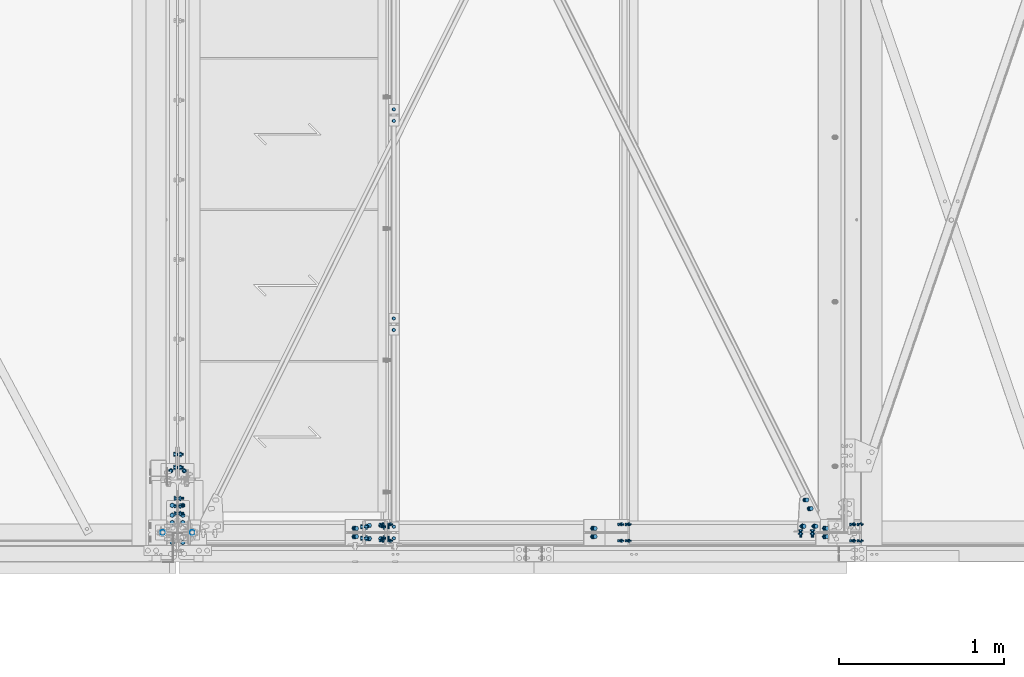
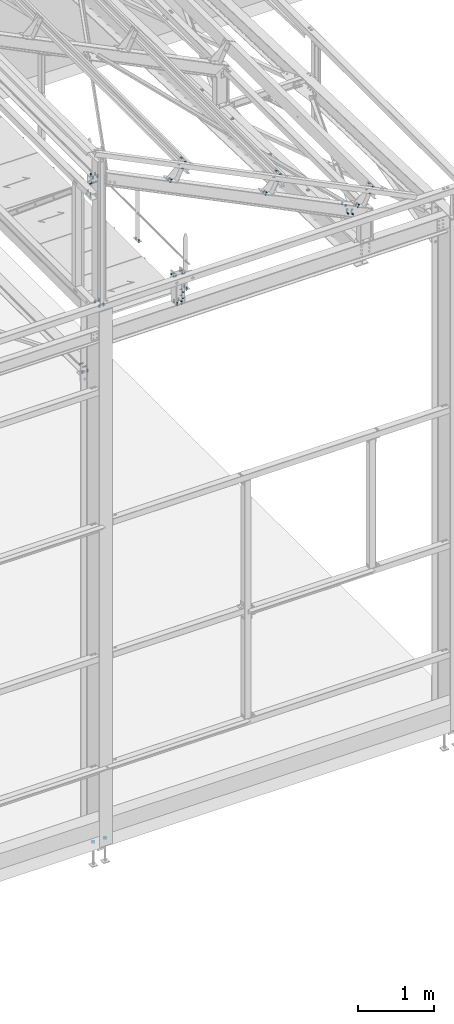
# One storey, part 186 of 362: 22 mechanical fasteners.
"""IFC2X3 building model written with IfcOpenShell, lengths in millimetres."""

from ifc_helpers import new_model, si_unit, frame, origin_with_axes, origin_2d_with_axis, place, context, subcontext, project, spatial, polyline, circle, outline, extrude, source, transform, mapped, material, type_object, element, save


model = new_model("IFC2X3")

# Units and contexts
model_context = context("Model", 3, precision=1e-05, world=origin_with_axes())
body_context = subcontext(model_context, "Body", "Model", "MODEL_VIEW")
ifc_project = project(units=[si_unit("LENGTHUNIT", "METRE", prefix="MILLI"), si_unit("AREAUNIT", "SQUARE_METRE"), si_unit("VOLUMEUNIT", "CUBIC_METRE"), si_unit("MASSUNIT", "GRAM", prefix="KILO"), si_unit("TIMEUNIT", "SECOND"), si_unit("PLANEANGLEUNIT", "RADIAN"), si_unit("SOLIDANGLEUNIT", "STERADIAN"), si_unit("THERMODYNAMICTEMPERATUREUNIT", "DEGREE_CELSIUS"), si_unit("LUMINOUSINTENSITYUNIT", "LUMEN")], contexts=[model_context])

# Site, building, storey
site_placement = place(None, origin_with_axes())
site = spatial("IfcSite", under=ifc_project, at=site_placement, Name="Undefined", CompositionType="ELEMENT")
building_placement = place(site_placement, origin_with_axes())
building = spatial("IfcBuilding", under=site, at=building_placement, Name="Undefined", CompositionType="ELEMENT")
storey_placement = place(building_placement, origin_with_axes())
storey = spatial("IfcBuildingStorey", under=building, at=storey_placement, Name="Undefined", CompositionType="ELEMENT", Elevation=0.0)

# Mechanical fasteners
ifc_material_1 = material(Name="8.8-SB-ZINGUE")
mechanical_fastener_type = type_object("IfcMechanicalFastenerType", Name="Bolt assembly")
shared_shape_1 = source(origin_with_axes(), body_context, "Body", "SweptSolid", [
    extrude(circle(Radius=7.0, at=origin_2d_with_axis()), frame((0.0, -0.100011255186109, 0.0), z_axis=(0.0, 1.0, 0.0), x_axis=(1.0, 0.0, 0.0)), (0.0, 0.0, 1.0), 3.1),
    extrude(circle(Radius=7.0, at=origin_2d_with_axis()), frame((0.0, -9.9, 0.0), z_axis=(0.0, 1.0, 0.0), x_axis=(1.0, 0.0, 0.0)), (0.0, 0.0, 1.0), 10.0),
    extrude(outline(polyline([(10.39230484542, 0.0), (5.19615242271, 9.00000000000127), (-5.19615242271, 9.00000000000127), (-10.39230484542, 0.0), (-5.19615242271, -9.00000000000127), (5.19615242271, -9.00000000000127), (10.39230484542, 0.0)])), frame((0.0, -17.92, 0.0), z_axis=(0.0, 1.0, 0.0), x_axis=(1.0, 0.0, 0.0)), (0.0, 0.0, 1.0), 7.92),
    extrude(circle(Radius=6.0, at=origin_2d_with_axis()), frame((0.0, -10.0000010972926, 0.0), z_axis=(0.0, 1.0, 0.0), x_axis=(1.0, 0.0, 0.0)), (0.0, 0.0, 1.0), 30.0),
    extrude(outline(polyline([(11.5008173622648, 0.0), (5.7504086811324, 9.96000000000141), (-5.7504086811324, 9.96000000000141), (-11.5008173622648, 0.0), (-5.7504086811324, -9.96000000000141), (5.7504086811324, -9.96000000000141), (11.5008173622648, 0.0)])), frame((0.0, 3.00000067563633, 0.0), z_axis=(0.0, 1.0, 0.0), x_axis=(1.0, 0.0, 0.0)), (0.0, 0.0, 1.0), 7.92),
])
mechanical_fastener_1_placement = place(storey_placement, frame((38381.4177264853, 5.9655603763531e-05, 8807.89603222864), z_axis=(0.0, 1.0, 0.0), x_axis=(0.44122107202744, 0.0, 0.89739844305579)))
element("IfcMechanicalFastener", 1, at=mechanical_fastener_1_placement, inside=storey, type_object=mechanical_fastener_type, material=ifc_material_1, Name="Bolt assembly", NominalDiameter=12.0, NominalLength=30.0, context=body_context, shape_type="MappedRepresentation", body=[
    mapped(shared_shape_1, transform((0.0, 0.0, -50.0))),
    mapped(shared_shape_1, transform((100.0, 0.0, -50.0))),
    mapped(shared_shape_1, transform((0.0, 0.0, 50.0))),
    mapped(shared_shape_1, transform((100.0, 0.0, 50.0))),
])
ifc_material_2 = material(Name="#_SB-8.8-ZINGUE")
shared_shape_2 = source(origin_with_axes(), body_context, "Body", "SweptSolid", [
    extrude(circle(Radius=9.0, at=origin_2d_with_axis()), frame((0.0, 0.1, 0.0), z_axis=(0.0, 1.0, 0.0), x_axis=(1.0, 0.0, 0.0)), (0.0, 0.0, 1.0), 6.0),
    extrude(circle(Radius=9.0, at=origin_2d_with_axis()), frame((0.0, 5.90002706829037, 0.0), z_axis=(0.0, 1.0, 0.0), x_axis=(1.0, 0.0, 0.0)), (0.0, 0.0, 1.0), 6.1),
    extrude(outline(polyline([(13.85640646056, 0.0), (6.92820323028, 12.0000000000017), (-6.92820323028, 12.0000000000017), (-13.85640646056, 0.0), (-6.92820323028, -12.0000000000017), (6.92820323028, -12.0000000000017), (13.85640646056, 0.0)])), frame((0.0, -10.5600019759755, 0.0), z_axis=(0.0, 1.0, 0.0), x_axis=(1.0, 0.0, 0.0)), (0.0, 0.0, 1.0), 10.56),
    extrude(circle(Radius=8.0, at=origin_2d_with_axis()), frame((0.0, 0.0, 0.0), z_axis=(0.0, 1.0, 0.0), x_axis=(1.0, 0.0, 0.0)), (0.0, 0.0, 1.0), 40.0),
    extrude(outline(polyline([(15.3344231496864, 0.0), (7.6672115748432, 13.2800000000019), (-7.6672115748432, 13.2800000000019), (-15.3344231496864, 0.0), (-7.6672115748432, -13.2800000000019), (7.6672115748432, -13.2800000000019), (15.3344231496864, 0.0)])), frame((0.0, 12.0000270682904, 0.0), z_axis=(0.0, 1.0, 0.0), x_axis=(1.0, 0.0, 0.0)), (0.0, 0.0, 1.0), 10.56),
])
mechanical_fastener_2_placement = place(storey_placement, frame((38119.1076681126, 38.0002790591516, 8591.4235645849), z_axis=(0.897398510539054, 0.0, -0.44122093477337), x_axis=(0.0, -1.0, 0.0)))
element("IfcMechanicalFastener", 2, at=mechanical_fastener_2_placement, inside=storey, type_object=mechanical_fastener_type, material=ifc_material_2, Name="Bolt assembly", NominalDiameter=16.0, NominalLength=40.0, context=body_context, shape_type="MappedRepresentation", body=[
    mapped(shared_shape_2, transform((0.0, 0.0, 40.0))),
    mapped(shared_shape_2, transform((0.0, 0.0, -40.0))),
])
shared_shape_3 = source(origin_with_axes(), body_context, "Body", "SweptSolid", [
    extrude(circle(Radius=9.0, at=origin_2d_with_axis()), frame((0.0, -0.100011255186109, 0.0), z_axis=(0.0, 1.0, 0.0), x_axis=(1.0, 0.0, 0.0)), (0.0, 0.0, 1.0), 10.3),
    extrude(circle(Radius=9.0, at=origin_2d_with_axis()), frame((0.0, -9.9, 0.0), z_axis=(0.0, 1.0, 0.0), x_axis=(1.0, 0.0, 0.0)), (0.0, 0.0, 1.0), 10.0),
    extrude(outline(polyline([(13.85640646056, 0.0), (6.92820323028, 12.0000000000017), (-6.92820323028, 12.0000000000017), (-13.85640646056, 0.0), (-6.92820323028, -12.0000000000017), (6.92820323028, -12.0000000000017), (13.85640646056, 0.0)])), frame((0.0, -20.5600000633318, 0.0), z_axis=(0.0, 1.0, 0.0), x_axis=(1.0, 0.0, 0.0)), (0.0, 0.0, 1.0), 10.56),
    extrude(circle(Radius=8.0, at=origin_2d_with_axis()), frame((0.0, -10.0000010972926, 0.0), z_axis=(0.0, 1.0, 0.0), x_axis=(1.0, 0.0, 0.0)), (0.0, 0.0, 1.0), 40.0),
    extrude(outline(polyline([(15.3344231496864, 0.0), (7.6672115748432, 13.2800000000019), (-7.6672115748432, 13.2800000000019), (-15.3344231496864, 0.0), (-7.6672115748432, -13.2800000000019), (7.6672115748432, -13.2800000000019), (15.3344231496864, 0.0)])), frame((0.0, 10.1999997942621, 0.0), z_axis=(0.0, 1.0, 0.0), x_axis=(1.0, 0.0, 0.0)), (0.0, 0.0, 1.0), 10.56),
])
mechanical_fastener_3_placement = place(storey_placement, frame((35444.9917140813, 3.14107590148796, 8049.90316097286), z_axis=(3.14103090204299e-11, 0.999506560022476, -0.0314107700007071), x_axis=(1.0, 0.0, 0.0)))
element("IfcMechanicalFastener", 3, at=mechanical_fastener_3_placement, inside=storey, type_object=mechanical_fastener_type, material=ifc_material_1, Name="Bolt assembly", NominalDiameter=16.0, NominalLength=40.0, context=body_context, shape_type="MappedRepresentation", body=[
    mapped(shared_shape_3, transform((0.0, 0.0, -40.0))),
    mapped(shared_shape_3, transform((69.9999999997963, 3.99268174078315e-10, -40.0000000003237))),
    mapped(shared_shape_3, transform((0.0, 0.0, 40.0))),
    mapped(shared_shape_3, transform((70.0000000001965, 4.12001099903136e-10, 39.999999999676))),
])
shared_shape_4 = source(origin_with_axes(), body_context, "Body", "SweptSolid", [
    extrude(circle(Radius=9.0, at=origin_2d_with_axis()), frame((0.0, -10.9000000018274, 0.0), z_axis=(0.0, 1.0, 0.0), x_axis=(1.0, 0.0, 0.0)), (0.0, 0.0, 1.0), 6.0),
    extrude(circle(Radius=9.0, at=origin_2d_with_axis()), frame((0.0, 4.9000000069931, 0.0), z_axis=(0.0, 1.0, 0.0), x_axis=(1.0, 0.0, 0.0)), (0.0, 0.0, 1.0), 6.1),
    extrude(circle(Radius=9.0, at=origin_2d_with_axis()), frame((0.0, -3.99999923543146, 0.0), z_axis=(0.0, 1.0, 0.0), x_axis=(1.0, 0.0, 0.0)), (0.0, 0.0, 1.0), 8.0),
    extrude(outline(polyline([(13.85640646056, 0.0), (6.92820323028, 12.0000000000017), (-6.92820323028, 12.0000000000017), (-13.85640646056, 0.0), (-6.92820323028, -12.0000000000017), (6.92820323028, -12.0000000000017), (13.85640646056, 0.0)])), frame((0.0, -21.5600000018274, 0.0), z_axis=(0.0, 1.0, 0.0), x_axis=(1.0, 0.0, 0.0)), (0.0, 0.0, 1.0), 10.56),
    extrude(circle(Radius=8.0, at=origin_2d_with_axis()), frame((0.0, -11.0000000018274, 0.0), z_axis=(0.0, 1.0, 0.0), x_axis=(1.0, 0.0, 0.0)), (0.0, 0.0, 1.0), 50.0),
    extrude(outline(polyline([(15.3344231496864, 0.0), (7.6672115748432, 13.2800000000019), (-7.6672115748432, 13.2800000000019), (-15.3344231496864, 0.0), (-7.6672115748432, -13.2800000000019), (7.6672115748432, -13.2800000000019), (15.3344231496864, 0.0)])), frame((0.0, 11.0000000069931, 0.0), z_axis=(0.0, 1.0, 0.0), x_axis=(1.0, 0.0, 0.0)), (0.0, 0.0, 1.0), 10.56),
])
mechanical_fastener_4_placement = place(storey_placement, frame((34280.0, 115.144214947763, 10326.8590535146), z_axis=(0.0, -0.640939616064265, -0.767591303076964), x_axis=(0.0, 0.767591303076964, -0.640939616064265)))
element("IfcMechanicalFastener", 4, at=mechanical_fastener_4_placement, inside=storey, type_object=mechanical_fastener_type, material=ifc_material_1, Name="Bolt assembly", NominalDiameter=16.0, NominalLength=50.0, context=body_context, shape_type="MappedRepresentation", body=[
    mapped(shared_shape_4, transform((0.0, 0.0, 0.0))),
    mapped(shared_shape_4, transform((60.0, 0.0, 0.0))),
    mapped(shared_shape_4, transform((120.0, 0.0, 0.0))),
])
shared_shape_5 = source(origin_with_axes(), body_context, "Body", "SweptSolid", [
    extrude(circle(Radius=7.0, at=origin_2d_with_axis()), frame((0.0, -10.0000010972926, 0.0), z_axis=(0.0, 1.0, 0.0), x_axis=(1.0, 0.0, 0.0)), (0.0, 0.0, 1.0), 10.1),
    extrude(outline(polyline([(10.39230484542, 0.0), (5.19615242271, 9.00000000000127), (-5.19615242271, 9.00000000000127), (-10.39230484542, 0.0), (-5.19615242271, -9.00000000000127), (5.19615242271, -9.00000000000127), (10.39230484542, 0.0)])), frame((0.0, -17.92, 0.0), z_axis=(0.0, 1.0, 0.0), x_axis=(1.0, 0.0, 0.0)), (0.0, 0.0, 1.0), 7.92),
    extrude(circle(Radius=6.0, at=origin_2d_with_axis()), frame((0.0, -10.0000010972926, 0.0), z_axis=(0.0, 1.0, 0.0), x_axis=(1.0, 0.0, 0.0)), (0.0, 0.0, 1.0), 40.0),
    extrude(outline(polyline([(11.5008173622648, 0.0), (5.7504086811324, 9.96000000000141), (-5.7504086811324, 9.96000000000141), (-11.5008173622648, 0.0), (-5.7504086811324, -9.96000000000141), (5.7504086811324, -9.96000000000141), (11.5008173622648, 0.0)])), frame((0.0, 0.0, 0.0), z_axis=(0.0, 1.0, 0.0), x_axis=(1.0, 0.0, 0.0)), (0.0, 0.0, 1.0), 7.92),
])
for number, where, z_axis, x_axis, name in (
    (5, (35593.9917123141, -35.0000008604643, 8240.00000643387), (-1.0, 0.0, 0.0), (0.0, 1.0, 0.0), "Bolt assembly"),
    (6, (35593.9917123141, 1230.00343196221, 8240.00000643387), (-1.0, 0.0, 0.0), (0.0, 1.0, 0.0), "Bolt assembly"),
    (7, (35593.9917133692, 2500.00343196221, 8240.0000055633), (-1.0, 0.0, 0.0), (0.0, 1.0, 0.0), "Bolt assembly"),
):
    element("IfcMechanicalFastener", number, at=place(storey_placement, frame(where, z_axis=z_axis, x_axis=x_axis)), inside=storey, type_object=mechanical_fastener_type, material=ifc_material_1, Name=name, NominalDiameter=12.0, NominalLength=40.0, context=body_context, shape_type="MappedRepresentation", body=[
        mapped(shared_shape_5, transform((0.0, 0.0, 0.0))),
        mapped(shared_shape_5, transform((70.0, -2.91038304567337e-11, 2.18278728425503e-10))),
    ])
shared_shape_6 = source(origin_with_axes(), body_context, "Body", "SweptSolid", [
    extrude(circle(Radius=9.0, at=origin_2d_with_axis()), frame((0.0, -0.100011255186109, 0.0), z_axis=(0.0, 1.0, 0.0), x_axis=(1.0, 0.0, 0.0)), (0.0, 0.0, 1.0), 8.6),
    extrude(circle(Radius=9.0, at=origin_2d_with_axis()), frame((0.0, -9.9, 0.0), z_axis=(0.0, 1.0, 0.0), x_axis=(1.0, 0.0, 0.0)), (0.0, 0.0, 1.0), 10.0),
    extrude(outline(polyline([(13.85640646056, 0.0), (6.92820323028, 12.0000000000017), (-6.92820323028, 12.0000000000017), (-13.85640646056, 0.0), (-6.92820323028, -12.0000000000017), (6.92820323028, -12.0000000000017), (13.85640646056, 0.0)])), frame((0.0, -20.5600000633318, 0.0), z_axis=(0.0, 1.0, 0.0), x_axis=(1.0, 0.0, 0.0)), (0.0, 0.0, 1.0), 10.56),
    extrude(circle(Radius=8.0, at=origin_2d_with_axis()), frame((0.0, -10.0000010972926, 0.0), z_axis=(0.0, 1.0, 0.0), x_axis=(1.0, 0.0, 0.0)), (0.0, 0.0, 1.0), 40.0),
    extrude(outline(polyline([(15.3344231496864, 0.0), (7.6672115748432, 13.2800000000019), (-7.6672115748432, 13.2800000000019), (-15.3344231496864, 0.0), (-7.6672115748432, -13.2800000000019), (7.6672115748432, -13.2800000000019), (15.3344231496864, 0.0)])), frame((0.0, 8.49999994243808, 0.0), z_axis=(0.0, 1.0, 0.0), x_axis=(1.0, 0.0, 0.0)), (0.0, 0.0, 1.0), 10.56),
])
for number, where, z_axis, x_axis, name in (
    (8, (35546.4917140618, 35.0001436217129, 8500.0), (0.0, 0.0, -1.0), (0.0, -1.0, 0.0), "Bolt assembly"),
    (9, (35413.4917140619, 35.0001436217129, 8500.0), (0.0, 0.0, 1.0), (0.0, -1.0, 0.0), "Bolt assembly"),
):
    element("IfcMechanicalFastener", number, at=place(storey_placement, frame(where, z_axis=z_axis, x_axis=x_axis)), inside=storey, type_object=mechanical_fastener_type, material=ifc_material_1, Name=name, NominalDiameter=16.0, NominalLength=40.0, context=body_context, shape_type="MappedRepresentation", body=[
        mapped(shared_shape_6, transform((0.0, 0.0, 0.0))),
        mapped(shared_shape_6, transform((70.0, -2.91038304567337e-11, 2.18278728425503e-10))),
    ])
mechanical_fastener_5_placement = place(storey_placement, frame((34279.9999984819, 374.998029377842, 7116.99999947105), z_axis=(-1.0, 0.0, 0.0), x_axis=(0.0, -1.0, 0.0)))
element("IfcMechanicalFastener", 10, at=mechanical_fastener_5_placement, inside=storey, type_object=mechanical_fastener_type, material=ifc_material_1, Name="Bolt assembly", NominalDiameter=16.0, NominalLength=40.0, context=body_context, shape_type="MappedRepresentation", body=[
    mapped(shared_shape_6, transform((0.0, 0.0, -40.0))),
    mapped(shared_shape_6, transform((0.0, 0.0, 40.0))),
])
shared_shape_7 = source(origin_with_axes(), body_context, "Body", "SweptSolid", [
    extrude(circle(Radius=7.0, at=origin_2d_with_axis()), frame((0.0, -8.5, 0.0), z_axis=(0.0, 1.0, 0.0), x_axis=(1.0, 0.0, 0.0)), (0.0, 0.0, 1.0), 8.6),
    extrude(outline(polyline([(10.39230484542, 0.0), (5.19615242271, 9.00000000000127), (-5.19615242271, 9.00000000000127), (-10.39230484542, 0.0), (-5.19615242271, -9.00000000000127), (5.19615242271, -9.00000000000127), (10.39230484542, 0.0)])), frame((0.0, -16.4200195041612, 0.0), z_axis=(0.0, 1.0, 0.0), x_axis=(1.0, 0.0, 0.0)), (0.0, 0.0, 1.0), 7.92),
    extrude(circle(Radius=6.0, at=origin_2d_with_axis()), frame((0.0, -8.5, 0.0), z_axis=(0.0, 1.0, 0.0), x_axis=(1.0, 0.0, 0.0)), (0.0, 0.0, 1.0), 30.0),
    extrude(outline(polyline([(11.5008173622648, 0.0), (5.7504086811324, 9.96000000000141), (-5.7504086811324, 9.96000000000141), (-11.5008173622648, 0.0), (-5.7504086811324, -9.96000000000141), (5.7504086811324, -9.96000000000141), (11.5008173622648, 0.0)])), frame((0.0, 0.0, 0.0), z_axis=(0.0, 1.0, 0.0), x_axis=(1.0, 0.0, 0.0)), (0.0, 0.0, 1.0), 7.92),
])
mechanical_fastener_6_placement = place(storey_placement, frame((35546.4917141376, -8.88394424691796e-09, 8205.00000000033), z_axis=(0.0, -1.0, 0.0), x_axis=(0.0, 0.0, -1.0)))
element("IfcMechanicalFastener", 11, at=mechanical_fastener_6_placement, inside=storey, type_object=mechanical_fastener_type, material=ifc_material_1, Name="Bolt assembly", NominalDiameter=12.0, NominalLength=30.0, context=body_context, shape_type="MappedRepresentation", body=[
    mapped(shared_shape_7, transform((0.0, 0.0, -35.0))),
    mapped(shared_shape_7, transform((99.9999999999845, 0.0, -34.9999999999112))),
    mapped(shared_shape_7, transform((0.0, 0.0, 35.0))),
    mapped(shared_shape_7, transform((100.000000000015, 0.0, 35.0000000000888))),
])
shared_shape_8 = source(origin_with_axes(), body_context, "Body", "SweptSolid", [
    extrude(circle(Radius=9.0, at=origin_2d_with_axis()), frame((0.0, -0.0999426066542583, 0.0), z_axis=(0.0, 1.0, 0.0), x_axis=(1.0, 0.0, 0.0)), (0.0, 0.0, 1.0), 8.6),
    extrude(circle(Radius=9.0, at=origin_2d_with_axis()), frame((0.0, -9.9, 0.0), z_axis=(0.0, 1.0, 0.0), x_axis=(1.0, 0.0, 0.0)), (0.0, 0.0, 1.0), 10.0),
    extrude(outline(polyline([(13.85640646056, 0.0), (6.92820323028, 12.0000000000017), (-6.92820323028, 12.0000000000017), (-13.85640646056, 0.0), (-6.92820323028, -12.0000000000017), (6.92820323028, -12.0000000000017), (13.85640646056, 0.0)])), frame((0.0, -20.5600000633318, 0.0), z_axis=(0.0, 1.0, 0.0), x_axis=(1.0, 0.0, 0.0)), (0.0, 0.0, 1.0), 10.56),
    extrude(circle(Radius=8.0, at=origin_2d_with_axis()), frame((0.0, -10.0000010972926, 0.0), z_axis=(0.0, 1.0, 0.0), x_axis=(1.0, 0.0, 0.0)), (0.0, 0.0, 1.0), 40.0),
    extrude(outline(polyline([(15.3344231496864, 0.0), (7.6672115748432, 13.2800000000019), (-7.6672115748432, 13.2800000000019), (-15.3344231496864, 0.0), (-7.6672115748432, -13.2800000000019), (7.6672115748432, -13.2800000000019), (15.3344231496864, 0.0)])), frame((0.0, 8.49999994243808, 0.0), z_axis=(0.0, 1.0, 0.0), x_axis=(1.0, 0.0, 0.0)), (0.0, 0.0, 1.0), 10.56),
])
for number, where, z_axis, x_axis, name in (
    (12, (38216.9694389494, 3.75141407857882e-05, 8654.74007251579), (0.0, 1.0, 0.0), (0.897398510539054, 0.0, -0.44122093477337), "Bolt assembly"),
    (13, (35359.6856809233, 3.75141407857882e-05, 10059.5712548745), (0.0, 1.0, 0.0), (0.897398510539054, 0.0, -0.44122093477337), "Bolt assembly"),
    (14, (36808.5190147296, 3.75141407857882e-05, 9347.22819841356), (0.0, 1.0, 0.0), (0.897398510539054, 0.0, -0.44122093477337), "Bolt assembly"),
):
    element("IfcMechanicalFastener", number, at=place(storey_placement, frame(where, z_axis=z_axis, x_axis=x_axis)), inside=storey, type_object=mechanical_fastener_type, material=ifc_material_1, Name=name, NominalDiameter=16.0, NominalLength=40.0, context=body_context, shape_type="MappedRepresentation", body=[
        mapped(shared_shape_8, transform((0.0, 0.0, -25.0))),
        mapped(shared_shape_8, transform((0.0, 0.0, 25.0))),
    ])
shared_shape_9 = source(origin_with_axes(), body_context, "Body", "SweptSolid", [
    extrude(circle(Radius=7.0, at=origin_2d_with_axis()), frame((0.0, -0.100011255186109, 0.0), z_axis=(0.0, 1.0, 0.0), x_axis=(1.0, 0.0, 0.0)), (0.0, 0.0, 1.0), 1.6),
    extrude(circle(Radius=7.0, at=origin_2d_with_axis()), frame((0.0, -9.9, 0.0), z_axis=(0.0, 1.0, 0.0), x_axis=(1.0, 0.0, 0.0)), (0.0, 0.0, 1.0), 10.0),
    extrude(outline(polyline([(10.39230484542, 0.0), (5.19615242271, 9.00000000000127), (-5.19615242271, 9.00000000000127), (-10.39230484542, 0.0), (-5.19615242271, -9.00000000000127), (5.19615242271, -9.00000000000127), (10.39230484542, 0.0)])), frame((0.0, -17.92, 0.0), z_axis=(0.0, 1.0, 0.0), x_axis=(1.0, 0.0, 0.0)), (0.0, 0.0, 1.0), 7.92),
    extrude(circle(Radius=6.0, at=origin_2d_with_axis()), frame((0.0, -10.0000010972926, 0.0), z_axis=(0.0, 1.0, 0.0), x_axis=(1.0, 0.0, 0.0)), (0.0, 0.0, 1.0), 30.0),
    extrude(outline(polyline([(11.5008173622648, 0.0), (5.7504086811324, 9.96000000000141), (-5.7504086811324, 9.96000000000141), (-11.5008173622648, 0.0), (-5.7504086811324, -9.96000000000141), (5.7504086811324, -9.96000000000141), (11.5008173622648, 0.0)])), frame((0.0, 1.50001896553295, 0.0), z_axis=(0.0, 1.0, 0.0), x_axis=(1.0, 0.0, 0.0)), (0.0, 0.0, 1.0), 7.92),
])
for number, where, z_axis, x_axis, name in (
    (15, (35523.6927473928, 5.9655603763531e-05, 10211.8298161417), (0.0, 1.0, 0.0), (0.44122107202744, 0.0, 0.89739844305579), "Bolt assembly"),
    (16, (36972.5260811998, 5.9655603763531e-05, 9499.48675968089), (0.0, 1.0, 0.0), (0.44122107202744, 0.0, 0.89739844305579), "Bolt assembly"),
):
    element("IfcMechanicalFastener", number, at=place(storey_placement, frame(where, z_axis=z_axis, x_axis=x_axis)), inside=storey, type_object=mechanical_fastener_type, material=ifc_material_1, Name=name, NominalDiameter=12.0, NominalLength=30.0, context=body_context, shape_type="MappedRepresentation", body=[
        mapped(shared_shape_9, transform((0.0, 0.0, -50.0))),
        mapped(shared_shape_9, transform((102.00000000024, -2.51020537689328e-10, -50.0))),
        mapped(shared_shape_9, transform((0.0, 0.0, 50.0))),
        mapped(shared_shape_9, transform((102.00000000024, -2.51020537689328e-10, 50.0))),
    ])
shared_shape_10 = source(origin_with_axes(), body_context, "Body", "SweptSolid", [
    extrude(circle(Radius=9.0, at=origin_2d_with_axis()), frame((0.0, -4.89876448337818, 0.0), z_axis=(0.0, 1.0, 0.0), x_axis=(1.0, 0.0, 0.0)), (0.0, 0.0, 1.0), 5.0),
    extrude(circle(Radius=9.0, at=origin_2d_with_axis()), frame((0.0, -0.100011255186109, 0.0), z_axis=(0.0, 1.0, 0.0), x_axis=(1.0, 0.0, 0.0)), (0.0, 0.0, 1.0), 6.1),
    extrude(outline(polyline([(13.85640646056, 0.0), (6.92820323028, 12.0000000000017), (-6.92820323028, 12.0000000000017), (-13.85640646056, 0.0), (-6.92820323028, -12.0000000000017), (6.92820323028, -12.0000000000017), (13.85640646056, 0.0)])), frame((0.0, -15.5587644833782, 0.0), z_axis=(0.0, 1.0, 0.0), x_axis=(1.0, 0.0, 0.0)), (0.0, 0.0, 1.0), 10.56),
    extrude(circle(Radius=8.0, at=origin_2d_with_axis()), frame((0.0, -4.99876448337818, 0.0), z_axis=(0.0, 1.0, 0.0), x_axis=(1.0, 0.0, 0.0)), (0.0, 0.0, 1.0), 30.0),
    extrude(outline(polyline([(15.3344231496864, 0.0), (7.6672115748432, 13.2800000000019), (-7.6672115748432, 13.2800000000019), (-15.3344231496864, 0.0), (-7.6672115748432, -13.2800000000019), (7.6672115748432, -13.2800000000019), (15.3344231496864, 0.0)])), frame((0.0, 6.0, 0.0), z_axis=(0.0, 1.0, 0.0), x_axis=(1.0, 0.0, 0.0)), (0.0, 0.0, 1.0), 10.56),
])
mechanical_fastener_7_placement = place(storey_placement, frame((38123.2129635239, 145.089591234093, 8589.40512750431), z_axis=(-0.78486955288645, -0.48483570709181, 0.385893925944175), x_axis=(-0.435090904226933, 0.874605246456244, 0.213919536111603)))
element("IfcMechanicalFastener", 17, at=mechanical_fastener_7_placement, inside=storey, type_object=mechanical_fastener_type, material=ifc_material_2, Name="Bolt assembly", NominalDiameter=16.0, NominalLength=30.0, context=body_context, shape_type="MappedRepresentation", body=[
    mapped(shared_shape_10, transform((0.0, 0.0, 0.0))),
    mapped(shared_shape_10, transform((60.0, 0.0, 0.0))),
])
shared_shape_11 = source(origin_with_axes(), body_context, "Body", "SweptSolid", [
    extrude(circle(Radius=9.0, at=origin_2d_with_axis()), frame((0.0, -2.89962116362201, 0.0), z_axis=(0.0, 1.0, 0.0), x_axis=(1.0, 0.0, 0.0)), (0.0, 0.0, 1.0), 5.7),
    extrude(circle(Radius=9.0, at=origin_2d_with_axis()), frame((0.0, -8.89990143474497, 0.0), z_axis=(0.0, 1.0, 0.0), x_axis=(1.0, 0.0, 0.0)), (0.0, 0.0, 1.0), 6.0),
    extrude(outline(polyline([(13.85640646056, 0.0), (6.92820323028, 12.0000000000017), (-6.92820323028, 12.0000000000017), (-13.85640646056, 0.0), (-6.92820323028, -12.0000000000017), (6.92820323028, -12.0000000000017), (13.85640646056, 0.0)])), frame((0.0, -19.559901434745, 0.0), z_axis=(0.0, 1.0, 0.0), x_axis=(1.0, 0.0, 0.0)), (0.0, 0.0, 1.0), 10.56),
    extrude(circle(Radius=8.0, at=origin_2d_with_axis()), frame((0.0, -8.99990143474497, 0.0), z_axis=(0.0, 1.0, 0.0), x_axis=(1.0, 0.0, 0.0)), (0.0, 0.0, 1.0), 40.0),
    extrude(outline(polyline([(15.3344231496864, 0.0), (7.6672115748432, 13.2800000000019), (-7.6672115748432, 13.2800000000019), (-15.3344231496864, 0.0), (-7.6672115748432, -13.2800000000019), (7.6672115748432, -13.2800000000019), (15.3344231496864, 0.0)])), frame((0.0, 2.80037874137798, 0.0), z_axis=(0.0, 1.0, 0.0), x_axis=(1.0, 0.0, 0.0)), (0.0, 0.0, 1.0), 10.56),
])
mechanical_fastener_8_placement = place(storey_placement, frame((38101.0176202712, 0.000378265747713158, 8554.63018357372), z_axis=(0.897398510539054, 0.0, -0.44122093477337), x_axis=(0.44122027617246, 6.00001450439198e-09, 0.897398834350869)))
element("IfcMechanicalFastener", 18, at=mechanical_fastener_8_placement, inside=storey, type_object=mechanical_fastener_type, material=ifc_material_2, Name="Bolt assembly", NominalDiameter=16.0, NominalLength=40.0, context=body_context, shape_type="MappedRepresentation", body=[
    mapped(shared_shape_11, transform((0.0, 0.0, 40.0))),
    mapped(shared_shape_11, transform((0.0, 0.0, -40.0))),
])
shared_shape_12 = source(origin_with_axes(), body_context, "Body", "SweptSolid", [
    extrude(circle(Radius=9.0, at=origin_2d_with_axis()), frame((0.0, -2.74999998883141, 0.0), z_axis=(0.0, 1.0, 0.0), x_axis=(1.0, 0.0, 0.0)), (0.0, 0.0, 1.0), 5.5),
    extrude(circle(Radius=9.0, at=origin_2d_with_axis()), frame((0.0, 3.40000111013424, 0.0), z_axis=(0.0, 1.0, 0.0), x_axis=(1.0, 0.0, 0.0)), (0.0, 0.0, 1.0), 10.1),
    extrude(circle(Radius=9.0, at=origin_2d_with_axis()), frame((0.0, -13.4000000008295, 0.0), z_axis=(0.0, 1.0, 0.0), x_axis=(1.0, 0.0, 0.0)), (0.0, 0.0, 1.0), 10.0),
    extrude(outline(polyline([(13.85640646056, 0.0), (6.92820323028, 12.0000000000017), (-6.92820323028, 12.0000000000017), (-13.85640646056, 0.0), (-6.92820323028, -12.0000000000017), (6.92820323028, -12.0000000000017), (13.85640646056, 0.0)])), frame((0.0, -24.0600000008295, 0.0), z_axis=(0.0, 1.0, 0.0), x_axis=(1.0, 0.0, 0.0)), (0.0, 0.0, 1.0), 10.56),
    extrude(circle(Radius=8.0, at=origin_2d_with_axis()), frame((0.0, -13.4999650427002, 0.0), z_axis=(0.0, 1.0, 0.0), x_axis=(1.0, 0.0, 0.0)), (0.0, 0.0, 1.0), 50.0),
    extrude(outline(polyline([(15.3344231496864, 0.0), (7.6672115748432, 13.2800000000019), (-7.6672115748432, 13.2800000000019), (-15.3344231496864, 0.0), (-7.6672115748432, -13.2800000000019), (7.6672115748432, -13.2800000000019), (15.3344231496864, 0.0)])), frame((0.0, 13.4999999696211, 0.0), z_axis=(0.0, 1.0, 0.0), x_axis=(1.0, 0.0, 0.0)), (0.0, 0.0, 1.0), 10.56),
])
mechanical_fastener_9_placement = place(storey_placement, frame((34279.999999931, 474.997269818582, 7183.49998805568), z_axis=(0.0, 0.0, 1.0), x_axis=(0.0, -1.0, 0.0)))
element("IfcMechanicalFastener", 19, at=mechanical_fastener_9_placement, inside=storey, type_object=mechanical_fastener_type, material=ifc_material_1, Name="Bolt assembly", NominalDiameter=16.0, NominalLength=50.0, context=body_context, shape_type="MappedRepresentation", body=[
    mapped(shared_shape_12, transform((0.0, 0.0, 0.0))),
    mapped(shared_shape_12, transform((80.0, 0.0, 0.0))),
])
shared_shape_13 = source(origin_with_axes(), body_context, "Body", "SweptSolid", [
    extrude(circle(Radius=9.0, at=origin_2d_with_axis()), frame((0.0, -0.10007666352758, 0.0), z_axis=(0.0, 1.0, 0.0), x_axis=(1.0, 0.0, 0.0)), (0.0, 0.0, 1.0), 10.1),
    extrude(circle(Radius=9.0, at=origin_2d_with_axis()), frame((0.0, -9.9, 0.0), z_axis=(0.0, 1.0, 0.0), x_axis=(1.0, 0.0, 0.0)), (0.0, 0.0, 1.0), 10.0),
    extrude(outline(polyline([(13.85640646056, 0.0), (6.92820323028, 12.0000000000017), (-6.92820323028, 12.0000000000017), (-13.85640646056, 0.0), (-6.92820323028, -12.0000000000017), (6.92820323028, -12.0000000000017), (13.85640646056, 0.0)])), frame((0.0, -20.5600000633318, 0.0), z_axis=(0.0, 1.0, 0.0), x_axis=(1.0, 0.0, 0.0)), (0.0, 0.0, 1.0), 10.56),
    extrude(circle(Radius=8.0, at=origin_2d_with_axis()), frame((0.0, -10.0000010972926, 0.0), z_axis=(0.0, 1.0, 0.0), x_axis=(1.0, 0.0, 0.0)), (0.0, 0.0, 1.0), 40.0),
    extrude(outline(polyline([(15.3344231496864, 0.0), (7.6672115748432, 13.2800000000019), (-7.6672115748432, 13.2800000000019), (-15.3344231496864, 0.0), (-7.6672115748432, -13.2800000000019), (7.6672115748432, -13.2800000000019), (15.3344231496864, 0.0)])), frame((0.0, 9.99997734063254, 0.0), z_axis=(0.0, 1.0, 0.0), x_axis=(1.0, 0.0, 0.0)), (0.0, 0.0, 1.0), 10.56),
])
mechanical_fastener_10_placement = place(storey_placement, frame((34280.0, -60.0000000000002, 8449.9999684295), z_axis=(-1.0, 0.0, 0.0), x_axis=(0.0, 1.0, 0.0)))
element("IfcMechanicalFastener", 20, at=mechanical_fastener_10_placement, inside=storey, type_object=mechanical_fastener_type, material=ifc_material_1, Name="Bolt assembly", NominalDiameter=16.0, NominalLength=40.0, context=body_context, shape_type="MappedRepresentation", body=[
    mapped(shared_shape_13, transform((0.0, 0.0, -32.5))),
    mapped(shared_shape_13, transform((120.0, 0.0, -32.5))),
    mapped(shared_shape_13, transform((0.0, 0.0, 32.5))),
    mapped(shared_shape_13, transform((120.0, 0.0, 32.5))),
])
shared_shape_14 = source(origin_with_axes(), body_context, "Body", "SweptSolid", [
    extrude(circle(Radius=9.0, at=origin_2d_with_axis()), frame((0.0, -8.40001950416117, 0.0), z_axis=(0.0, 1.0, 0.0), x_axis=(1.0, 0.0, 0.0)), (0.0, 0.0, 1.0), 8.5),
    extrude(circle(Radius=9.0, at=origin_2d_with_axis()), frame((0.0, -0.100011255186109, 0.0), z_axis=(0.0, 1.0, 0.0), x_axis=(1.0, 0.0, 0.0)), (0.0, 0.0, 1.0), 10.1),
    extrude(outline(polyline([(13.85640646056, 0.0), (6.92820323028, 12.0000000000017), (-6.92820323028, 12.0000000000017), (-13.85640646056, 0.0), (-6.92820323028, -12.0000000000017), (6.92820323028, -12.0000000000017), (13.85640646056, 0.0)])), frame((0.0, -19.0599999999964, 0.0), z_axis=(0.0, 1.0, 0.0), x_axis=(1.0, 0.0, 0.0)), (0.0, 0.0, 1.0), 10.56),
    extrude(circle(Radius=8.0, at=origin_2d_with_axis()), frame((0.0, -8.5, 0.0), z_axis=(0.0, 1.0, 0.0), x_axis=(1.0, 0.0, 0.0)), (0.0, 0.0, 1.0), 40.0),
    extrude(outline(polyline([(15.3344231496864, 0.0), (7.6672115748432, 13.2800000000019), (-7.6672115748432, 13.2800000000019), (-15.3344231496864, 0.0), (-7.6672115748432, -13.2800000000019), (7.6672115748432, -13.2800000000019), (15.3344231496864, 0.0)])), frame((0.0, 10.0000000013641, 0.0), z_axis=(0.0, 1.0, 0.0), x_axis=(1.0, 0.0, 0.0)), (0.0, 0.0, 1.0), 10.56),
])
mechanical_fastener_11_placement = place(storey_placement, frame((34280.0000000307, 105.000000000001, 10423.0), z_axis=(-1.0, 0.0, 0.0), x_axis=(0.0, 1.0, 0.0)))
element("IfcMechanicalFastener", 21, at=mechanical_fastener_11_placement, inside=storey, type_object=mechanical_fastener_type, material=ifc_material_1, Name="Bolt assembly", NominalDiameter=16.0, NominalLength=40.0, context=body_context, shape_type="MappedRepresentation", body=[
    mapped(shared_shape_14, transform((0.0, 0.0, -32.5))),
    mapped(shared_shape_14, transform((60.0, 0.0, -32.5))),
    mapped(shared_shape_14, transform((0.0, 0.0, 32.5))),
    mapped(shared_shape_14, transform((60.0, 0.0, 32.5))),
])
ifc_material_3 = material(Name="6.8")
shared_shape_15 = source(origin_with_axes(), body_context, "Body", "SweptSolid", [
    extrude(circle(Radius=13.0, at=origin_2d_with_axis()), frame((0.0, 0.0, 0.0), z_axis=(0.0, 1.0, 0.0), x_axis=(1.0, 0.0, 0.0)), (0.0, 0.0, 1.0), 10.1),
])
mechanical_fastener_12_placement = place(storey_placement, frame((34280.0000000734, 0.0, -200.0), z_axis=(-1.0, 0.0, 0.0), x_axis=(0.0, 1.0, 0.0)))
element("IfcMechanicalFastener", 22, at=mechanical_fastener_12_placement, inside=storey, type_object=mechanical_fastener_type, material=ifc_material_3, Name="Bolt assembly", NominalDiameter=24.0, NominalLength=10.0, context=body_context, shape_type="MappedRepresentation", body=[
    mapped(shared_shape_15, transform((-8.00355337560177e-11, 1.57342583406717e-10, -90.000000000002))),
    mapped(shared_shape_15, transform((8.36735125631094e-11, -1.5825207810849e-10, 90.0))),
])

save(model, "model.ifc")
